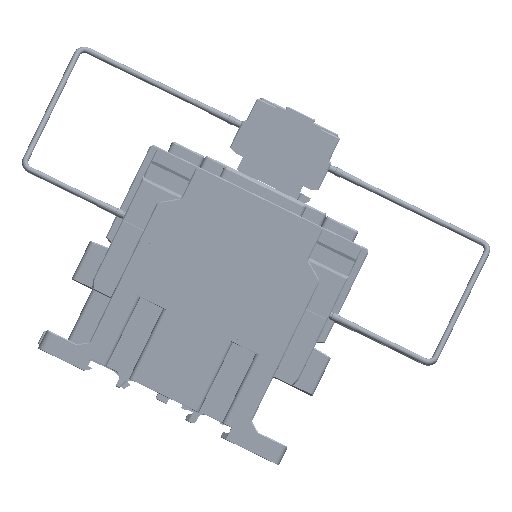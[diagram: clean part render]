
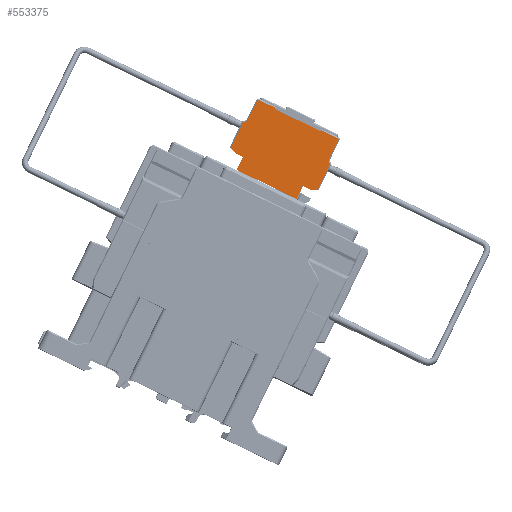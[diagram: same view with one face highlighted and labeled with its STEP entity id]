
A CAD part, front view. The second image highlights one B-rep face of the part: STEP entity #553375.
In plain terms, the highlighted planar face has unit normal (0, -1, 0) as drawn and (-1, 0, 0) by its records, which use the part's own axes.
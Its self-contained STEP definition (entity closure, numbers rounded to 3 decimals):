
#505520=DIRECTION('',(0.,1.,0.));
#505521=VECTOR('',#505520,4.25);
#505522=CARTESIAN_POINT('',(-22.25,-20.25,10.9));
#505523=LINE('',#505522,#505521);
#513270=DIRECTION('',(0.,1.,0.));
#513271=VECTOR('',#513270,32.);
#513272=CARTESIAN_POINT('',(-22.25,-16.,17.9));
#513273=LINE('',#513272,#513271);
#520011=DIRECTION('',(0.,1.,0.));
#520012=VECTOR('',#520011,4.25);
#520013=CARTESIAN_POINT('',(-22.25,16.,10.9));
#520014=LINE('',#520013,#520012);
#520068=DIRECTION('',(0.,1.,0.));
#520069=VECTOR('',#520068,9.068);
#520070=CARTESIAN_POINT('',(-22.25,-21.25,-17.1));
#520071=LINE('',#520070,#520069);
#520075=DIRECTION('',(0.,0.135,0.991));
#520076=VECTOR('',#520075,0.606);
#520077=CARTESIAN_POINT('',(-22.25,-12.182,-17.1));
#520078=LINE('',#520077,#520076);
#520082=DIRECTION('',(0.,1.,0.));
#520083=VECTOR('',#520082,24.2);
#520084=CARTESIAN_POINT('',(-22.25,-12.1,-16.5));
#520085=LINE('',#520084,#520083);
#520089=DIRECTION('',(0.,0.135,-0.991));
#520090=VECTOR('',#520089,0.606);
#520091=CARTESIAN_POINT('',(-22.25,12.1,-16.5));
#520092=LINE('',#520091,#520090);
#520096=DIRECTION('',(0.,1.,0.));
#520097=VECTOR('',#520096,9.068);
#520098=CARTESIAN_POINT('',(-22.25,12.182,-17.1));
#520099=LINE('',#520098,#520097);
#520103=CARTESIAN_POINT('',(-22.25,21.25,-16.6));
#520104=DIRECTION('',(1.,0.,0.));
#520105=DIRECTION('',(0.,0.,-1.));
#520106=AXIS2_PLACEMENT_3D('',#520103,#520104,#520105);
#520111=DIRECTION('',(0.,0.,1.));
#520112=VECTOR('',#520111,10.679);
#520113=CARTESIAN_POINT('',(-22.25,21.75,-16.6));
#520114=LINE('',#520113,#520112);
#520118=CARTESIAN_POINT('',(-22.25,22.85,-5.921));
#520119=DIRECTION('',(-1.,0.,0.));
#520120=DIRECTION('',(0.,-1.,0.));
#520121=AXIS2_PLACEMENT_3D('',#520118,#520119,#520120);
#520126=DIRECTION('',(0.,0.832,0.555));
#520127=VECTOR('',#520126,0.679);
#520128=CARTESIAN_POINT('',(-22.25,22.24,
-5.006));
#520129=LINE('',#520128,#520127);
#520133=CARTESIAN_POINT('',(-22.25,22.25,-3.797));
#520134=DIRECTION('',(1.,0.,0.));
#520135=DIRECTION('',(0.,0.555,-0.832));
#520136=AXIS2_PLACEMENT_3D('',#520133,#520134,#520135);
#520141=DIRECTION('',(0.,0.,1.));
#520142=VECTOR('',#520141,13.412);
#520143=CARTESIAN_POINT('',(-22.25,23.25,-3.797));
#520144=LINE('',#520143,#520142);
#520148=DIRECTION('',(0.,0.919,-0.394));
#520149=VECTOR('',#520148,3.264);
#520150=CARTESIAN_POINT('',(-22.25,20.25,10.9));
#520151=LINE('',#520150,#520149);
#520155=DIRECTION('',(0.,0.,-1.));
#520156=VECTOR('',#520155,7.);
#520157=CARTESIAN_POINT('',(-22.25,16.,17.9));
#520158=LINE('',#520157,#520156);
#520162=DIRECTION('',(0.,0.,-1.));
#520163=VECTOR('',#520162,7.);
#520164=CARTESIAN_POINT('',(-22.25,-16.,17.9));
#520165=LINE('',#520164,#520163);
#520169=DIRECTION('',(0.,0.919,0.394));
#520170=VECTOR('',#520169,3.264);
#520171=CARTESIAN_POINT('',(-22.25,-23.25,9.614));
#520172=LINE('',#520171,#520170);
#520176=DIRECTION('',(0.,0.,-1.));
#520177=VECTOR('',#520176,13.412);
#520178=CARTESIAN_POINT('',(-22.25,-23.25,9.614));
#520179=LINE('',#520178,#520177);
#520183=CARTESIAN_POINT('',(-22.25,-22.25,-3.797));
#520184=DIRECTION('',(1.,0.,0.));
#520185=DIRECTION('',(0.,-1.,0.));
#520186=AXIS2_PLACEMENT_3D('',#520183,#520184,#520185);
#520191=DIRECTION('',(0.,0.832,-0.555));
#520192=VECTOR('',#520191,0.679);
#520193=CARTESIAN_POINT('',(-22.25,-22.805,-4.629));
#520194=LINE('',#520193,#520192);
#520198=CARTESIAN_POINT('',(-22.25,-22.85,-5.921));
#520199=DIRECTION('',(-1.,0.,0.));
#520200=DIRECTION('',(0.,0.555,0.832));
#520201=AXIS2_PLACEMENT_3D('',#520198,#520199,#520200);
#520206=DIRECTION('',(0.,0.,-1.));
#520207=VECTOR('',#520206,10.679);
#520208=CARTESIAN_POINT('',(-22.25,-21.75,
-5.921));
#520209=LINE('',#520208,#520207);
#520213=CARTESIAN_POINT('',(-22.25,-21.25,-16.6));
#520214=DIRECTION('',(1.,0.,0.));
#520215=DIRECTION('',(0.,-1.,0.));
#520216=AXIS2_PLACEMENT_3D('',#520213,#520214,#520215);
#535274=CARTESIAN_POINT('',(-22.25,16.,17.9));
#535276=VERTEX_POINT('',#535274);
#536603=CARTESIAN_POINT('',(-22.25,16.,10.9));
#536604=VERTEX_POINT('',#536603);
#536615=CARTESIAN_POINT('',(-22.25,-16.,17.9));
#536616=CARTESIAN_POINT('',(-22.25,-16.,10.9));
#536617=VERTEX_POINT('',#536615);
#536618=VERTEX_POINT('',#536616);
#536699=CARTESIAN_POINT('',(-22.25,-12.1,-16.5));
#536700=CARTESIAN_POINT('',(-22.25,12.1,-16.5));
#536701=VERTEX_POINT('',#536699);
#536702=VERTEX_POINT('',#536700);
#536732=CARTESIAN_POINT('',(-22.25,-20.25,10.9));
#536734=VERTEX_POINT('',#536732);
#536735=CARTESIAN_POINT('',(-22.25,20.25,10.9));
#536737=VERTEX_POINT('',#536735);
#537428=CARTESIAN_POINT('',(-22.25,-12.182,-17.1));
#537430=VERTEX_POINT('',#537428);
#537431=CARTESIAN_POINT('',(-22.25,-21.25,-17.1));
#537432=VERTEX_POINT('',#537431);
#537435=CARTESIAN_POINT('',(-22.25,12.182,-17.1));
#537437=VERTEX_POINT('',#537435);
#537441=CARTESIAN_POINT('',(-22.25,21.25,-17.1));
#537442=VERTEX_POINT('',#537441);
#537444=CARTESIAN_POINT('',(-22.25,23.25,9.614));
#537446=VERTEX_POINT('',#537444);
#537447=CARTESIAN_POINT('',(-22.25,23.25,-3.797));
#537448=VERTEX_POINT('',#537447);
#537453=CARTESIAN_POINT('',(-22.25,22.805,-4.629));
#537454=VERTEX_POINT('',#537453);
#537457=CARTESIAN_POINT('',(-22.25,22.24,
-5.006));
#537458=VERTEX_POINT('',#537457);
#537461=CARTESIAN_POINT('',(-22.25,21.75,-5.921));
#537462=VERTEX_POINT('',#537461);
#537465=CARTESIAN_POINT('',(-22.25,21.75,-16.6));
#537466=VERTEX_POINT('',#537465);
#537475=CARTESIAN_POINT('',(-22.25,-23.25,9.614));
#537476=VERTEX_POINT('',#537475);
#537485=CARTESIAN_POINT('',(-22.25,-23.25,-3.797));
#537486=VERTEX_POINT('',#537485);
#537489=CARTESIAN_POINT('',(-22.25,-22.805,-4.629));
#537490=VERTEX_POINT('',#537489);
#537493=CARTESIAN_POINT('',(-22.25,-22.24,
-5.006));
#537494=VERTEX_POINT('',#537493);
#537497=CARTESIAN_POINT('',(-22.25,-21.75,-5.921));
#537498=VERTEX_POINT('',#537497);
#537501=CARTESIAN_POINT('',(-22.25,-21.75,-16.6));
#537502=VERTEX_POINT('',#537501);
#553336=CARTESIAN_POINT('',(-22.25,-23.75,-18.6));
#553337=DIRECTION('',(-1.,0.,0.));
#553338=DIRECTION('',(0.,0.,1.));
#553339=AXIS2_PLACEMENT_3D('',#553336,#553337,#553338);
#553340=PLANE('',#553339);
#553341=ORIENTED_EDGE('',*,*,#546626,.T.);
#553342=ORIENTED_EDGE('',*,*,#546644,.T.);
#553344=ORIENTED_EDGE('',*,*,#553343,.T.);
#553345=ORIENTED_EDGE('',*,*,#546670,.T.);
#553346=ORIENTED_EDGE('',*,*,#546688,.T.);
#553347=ORIENTED_EDGE('',*,*,#546702,.T.);
#553349=ORIENTED_EDGE('',*,*,#553348,.T.);
#553351=ORIENTED_EDGE('',*,*,#553350,.T.);
#553353=ORIENTED_EDGE('',*,*,#553352,.T.);
#553355=ORIENTED_EDGE('',*,*,#553354,.T.);
#553357=ORIENTED_EDGE('',*,*,#553356,.T.);
#553359=ORIENTED_EDGE('',*,*,#553358,.F.);
#553360=ORIENTED_EDGE('',*,*,#553275,.F.);
#553361=ORIENTED_EDGE('',*,*,#544663,.F.);
#553362=ORIENTED_EDGE('',*,*,#547869,.F.);
#553363=ORIENTED_EDGE('',*,*,#547526,.T.);
#553364=ORIENTED_EDGE('',*,*,#541937,.F.);
#553365=ORIENTED_EDGE('',*,*,#546356,.F.);
#553366=ORIENTED_EDGE('',*,*,#546372,.T.);
#553367=ORIENTED_EDGE('',*,*,#546386,.T.);
#553369=ORIENTED_EDGE('',*,*,#553368,.T.);
#553370=ORIENTED_EDGE('',*,*,#546470,.T.);
#553371=ORIENTED_EDGE('',*,*,#546485,.T.);
#553372=ORIENTED_EDGE('',*,*,#546500,.T.);
#553373=EDGE_LOOP('',(#553341,#553342,#553344,#553345,#553346,#553347,#553349,
#553351,#553353,#553355,#553357,#553359,#553360,#553361,#553362,#553363,#553364,
#553365,#553366,#553367,#553369,#553370,#553371,#553372));
#553374=FACE_OUTER_BOUND('',#553373,.F.);
#553375=ADVANCED_FACE('',(#553374),#553340,.T.);
#520107=CIRCLE('',#520106,0.5);
#520122=CIRCLE('',#520121,1.1);
#520137=CIRCLE('',#520136,1.);
#520187=CIRCLE('',#520186,1.);
#520202=CIRCLE('',#520201,1.1);
#520217=CIRCLE('',#520216,0.5);
#541937=EDGE_CURVE('',#536734,#536618,#505523,.T.);
#544663=EDGE_CURVE('',#535276,#536604,#520158,.T.);
#546356=EDGE_CURVE('',#537476,#536734,#520172,.T.);
#546372=EDGE_CURVE('',#537476,#537486,#520179,.T.);
#546386=EDGE_CURVE('',#537486,#537490,#520187,.T.);
#546470=EDGE_CURVE('',#537494,#537498,#520202,.T.);
#546485=EDGE_CURVE('',#537498,#537502,#520209,.T.);
#546500=EDGE_CURVE('',#537502,#537432,#520217,.T.);
#546626=EDGE_CURVE('',#537432,#537430,#520071,.T.);
#546644=EDGE_CURVE('',#537430,#536701,#520078,.T.);
#546670=EDGE_CURVE('',#536702,#537437,#520092,.T.);
#546688=EDGE_CURVE('',#537437,#537442,#520099,.T.);
#546702=EDGE_CURVE('',#537442,#537466,#520107,.T.);
#547526=EDGE_CURVE('',#536617,#536618,#520165,.T.);
#547869=EDGE_CURVE('',#536617,#535276,#513273,.T.);
#553275=EDGE_CURVE('',#536604,#536737,#520014,.T.);
#553343=EDGE_CURVE('',#536701,#536702,#520085,.T.);
#553348=EDGE_CURVE('',#537466,#537462,#520114,.T.);
#553350=EDGE_CURVE('',#537462,#537458,#520122,.T.);
#553352=EDGE_CURVE('',#537458,#537454,#520129,.T.);
#553354=EDGE_CURVE('',#537454,#537448,#520137,.T.);
#553356=EDGE_CURVE('',#537448,#537446,#520144,.T.);
#553358=EDGE_CURVE('',#536737,#537446,#520151,.T.);
#553368=EDGE_CURVE('',#537490,#537494,#520194,.T.);
